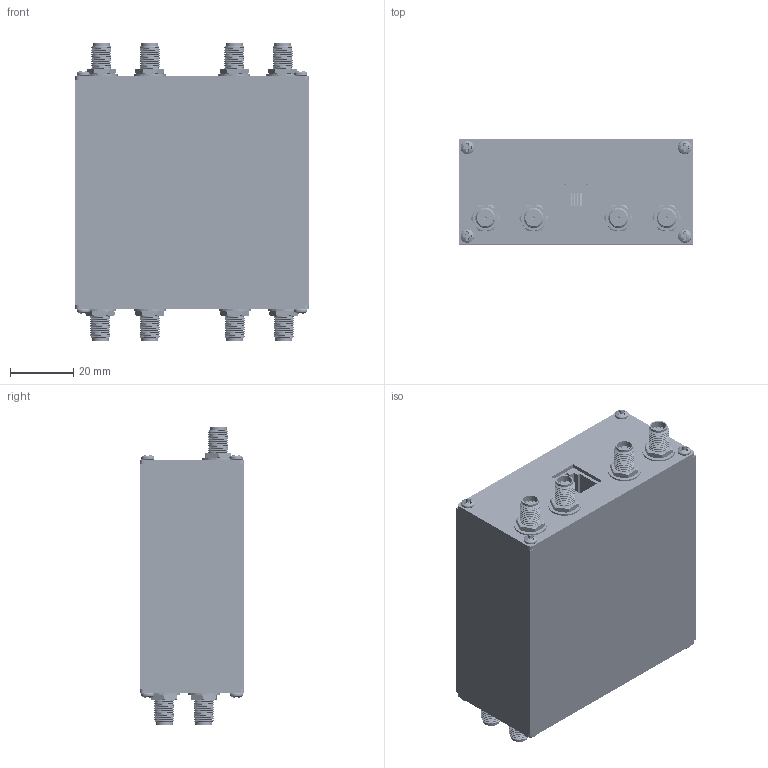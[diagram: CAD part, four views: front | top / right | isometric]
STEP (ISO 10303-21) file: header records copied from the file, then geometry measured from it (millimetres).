
FILE_DESCRIPTION (( 'STEP AP214' ), '1' );
FILE_NAME ('PRL-425QLT-SMA.STEP', '2023-10-03T20:32:44', ( '' ), ( '' ), 'SwSTEP 2.0', 'SolidWorks 2021', '' );
FILE_SCHEMA (( 'AUTOMOTIVE_DESIGN' ));
Length unit declared in the file: millimetre
Products named in the file (11): SMA_Washer; ENDPLATE - 42; 2-56 Screw_90272A077; SMA_142_0701_871; DCJack_52018-4446; SMA_Nut_91847A429; PRL-425QLT-SMA; 42 Endplate subASM; 122 Endplate subASM; PRL-970-2.8EX; ENDPLATE - 122
Assembly tree (50 placements, depth 3):
  PRL-425QLT-SMA
    122 Endplate subASM
      ENDPLATE - 122
      2-56 Screw_90272A077  x4
      SMA_142_0701_871  x8
      SMA_Nut_91847A429  x8
      SMA_Washer  x8
    42 Endplate subASM
      ENDPLATE - 42
      2-56 Screw_90272A077  x4
      DCJack_52018-4446
      SMA_142_0701_871  x4
      SMA_Nut_91847A429  x4
      SMA_Washer  x4
    PRL-970-2.8EX
Bounding box: 73.66 x 33.02 x 93.73 mm (x, y, z)
Volume: 44552.6 mm3; surface area: 69863 mm2
Topology: 156 solids, 156 shells, 5588 faces, 14772 edges, 9566 vertices
Faces by surface type: cylinder 2358, plane 1828, bspline 774, cone 580, torus 32, sphere 16
Entity records: 44257 total; most frequent: CARTESIAN_POINT 14062, ORIENTED_EDGE 6308, DIRECTION 5678, EDGE_CURVE 3154, VERTEX_POINT 2072, AXIS2_PLACEMENT_3D 1949, VECTOR 1780, LINE 1780
